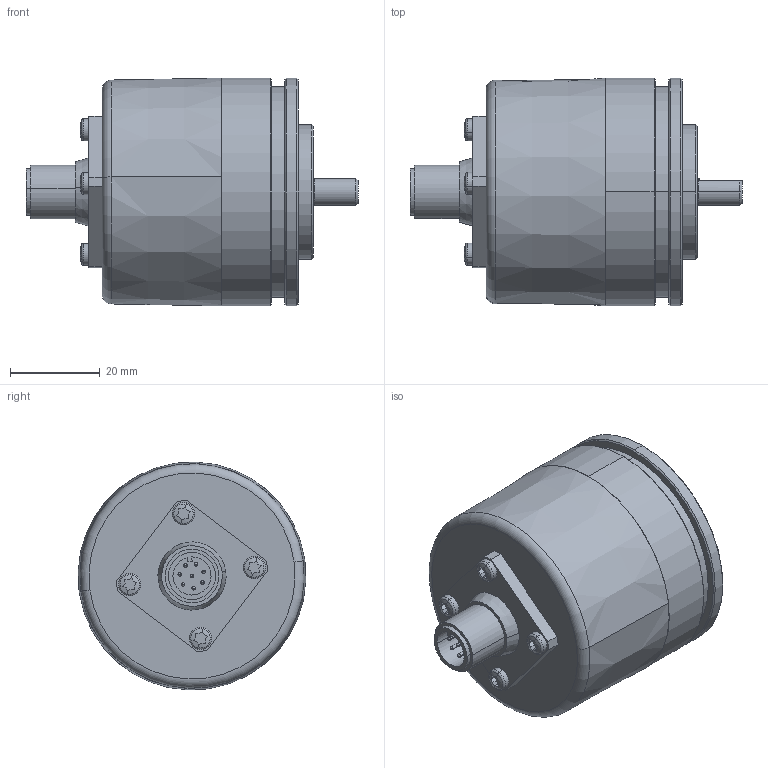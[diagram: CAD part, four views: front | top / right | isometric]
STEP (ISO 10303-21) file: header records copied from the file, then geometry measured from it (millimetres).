
FILE_DESCRIPTION (( 'STEP AP214' ), '1' );
FILE_NAME ('5000.61X3.XXXX.STEP', '2008-11-28T10:29:17', ( 'admin' ), ( 'Fritz Kübler GmbH' ), 'SwSTEP 2.0', 'SolidWorks 2008', '' );
FILE_SCHEMA (( 'AUTOMOTIVE_DESIGN' ));
Length unit declared in the file: millimetre
Products named in the file (1): 5000.61X3.XXXX
Bounding box: 74 x 50.8 x 50.8 mm (x, y, z)
Volume: 49366.5 mm3; surface area: 31134 mm2
Topology: 9 solids, 10 shells, 518 faces, 1236 edges, 742 vertices
Faces by surface type: cylinder 145, plane 144, cone 97, torus 69, sphere 51, bspline 12
Entity records: 21250 total; most frequent: CARTESIAN_POINT 3647, DIRECTION 2724, ORIENTED_EDGE 2276, AXIS2_PLACEMENT_3D 1151, EDGE_CURVE 1138, VERTEX_POINT 696, CIRCLE 644, EDGE_LOOP 610
